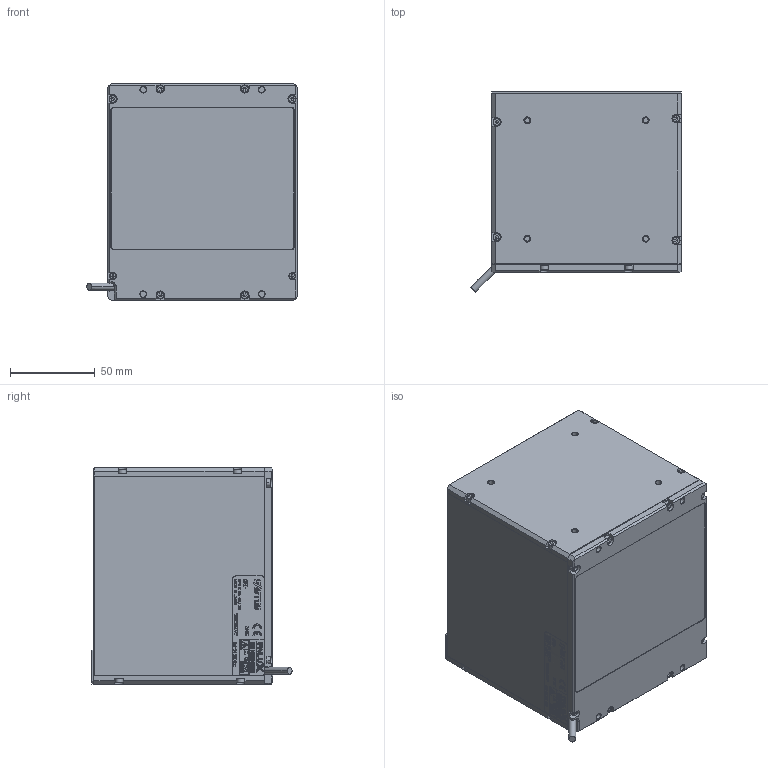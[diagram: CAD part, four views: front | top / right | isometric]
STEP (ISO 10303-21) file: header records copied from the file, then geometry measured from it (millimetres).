
FILE_DESCRIPTION(('Creo Elements/Direct Modeling STEP Export'),'2;1');
FILE_NAME('OPX-M100.stp','2015-11-24T15:38:42',(''),(''),'PTC Creo Elements/Direct Modeling STEP processor for AP214 (Solid Model)','PTC Creo Elements/Direct Modeling 19.0 09-May-2014 (C) Parametric Technology GmbH','');
FILE_SCHEMA(('AUTOMOTIVE_DESIGN { 1 0 10303 214 1 1 1 1 }'));
Length unit declared in the file: millimetre
Products named in the file (2): OPX-M100.PRT
Assembly tree (1 placements, depth 2):
  OPX-M100.PRT
    OPX-M100.PRT
Bounding box: 124.45 x 118.35 x 128 mm (x, y, z)
Volume: 981156.5 mm3; surface area: 139293.4 mm2
Topology: 1 solids, 36 shells, 1304 faces, 4200 edges, 3330 vertices
Faces by surface type: plane 902, cylinder 244, cone 158
Entity records: 60069 total; most frequent: CARTESIAN_POINT 12789, ORIENTED_EDGE 8336, DIRECTION 6367, EDGE_CURVE 4168, VERTEX_POINT 3332, VECTOR 2801, LINE 2801, AXIS2_PLACEMENT_3D 1783
